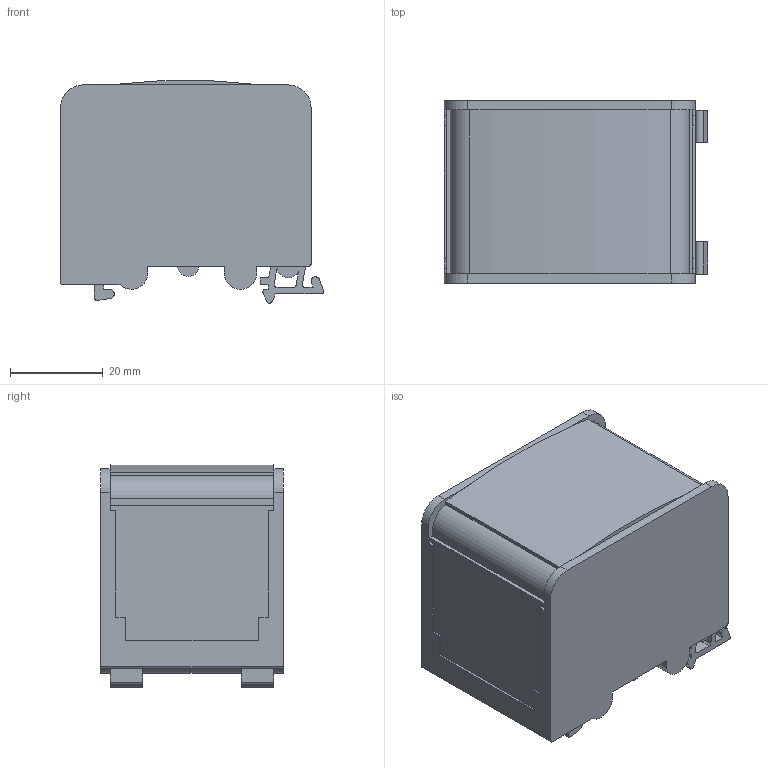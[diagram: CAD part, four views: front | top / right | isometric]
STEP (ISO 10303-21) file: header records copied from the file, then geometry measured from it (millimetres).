
FILE_DESCRIPTION(/* description */ ('Unknown'),/* implementation_level */ '2;1');
FILE_NAME(/* name */ 'DTB obecný',/* time_stamp */ '2024-05-27T07:01:35+02:00',/* author */ ('Unknown'),/* organization */ ('Unknown'),/* preprocessor_version */ 'ST-DEVELOPER v19.4',/* originating_system */ 'Solid Edge',/* authorisation */ 'Unknown');
FILE_SCHEMA (('AUTOMOTIVE_DESIGN {1 0 10303 214 3 1 1}'));
Length unit declared in the file: millimetre
Products named in the file (1): DTB obecný
Bounding box: 56.7 x 39.3 x 47.89 mm (x, y, z)
Volume: 86515.8 mm3; surface area: 13481.2 mm2
Topology: 1 solids, 1 shells, 125 faces, 359 edges, 238 vertices
Faces by surface type: plane 90, cylinder 35
Entity records: 4117 total; most frequent: CARTESIAN_POINT 723, ORIENTED_EDGE 718, DIRECTION 689, EDGE_CURVE 359, LINE 281, VECTOR 281, VERTEX_POINT 238, AXIS2_PLACEMENT_3D 204
